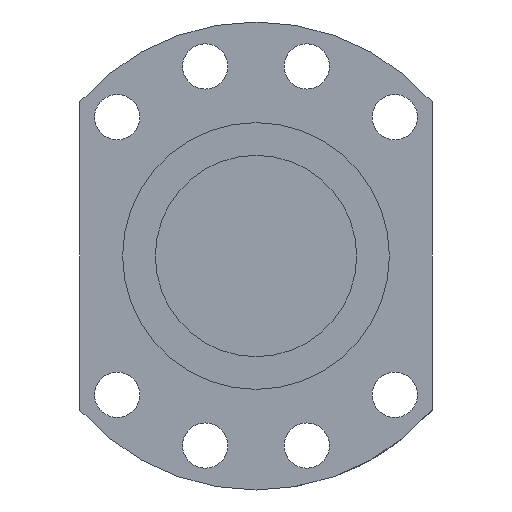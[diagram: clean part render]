
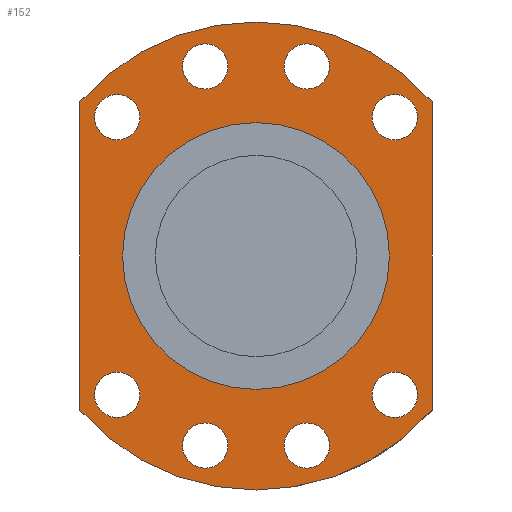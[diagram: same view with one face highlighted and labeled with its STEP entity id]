
A CAD part, front view. The second image highlights one B-rep face of the part: STEP entity #152.
In plain terms, the highlighted planar face has unit normal (0, -1, 0).
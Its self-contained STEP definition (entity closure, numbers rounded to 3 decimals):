
#105=LINE('',#1003,#113);
#107=LINE('',#1006,#115);
#113=VECTOR('',#726,1.);
#115=VECTOR('',#730,1.);
#133=PLANE('',#644);
#152=ADVANCED_FACE('',(#223,#224,#225,#226,#227,#228,#229,#230,#231,#232),
#133,.F.);
#223=FACE_BOUND('',#305,.T.);
#224=FACE_BOUND('',#306,.T.);
#225=FACE_BOUND('',#307,.T.);
#226=FACE_BOUND('',#308,.T.);
#227=FACE_BOUND('',#309,.T.);
#228=FACE_BOUND('',#310,.T.);
#229=FACE_BOUND('',#311,.T.);
#230=FACE_BOUND('',#312,.T.);
#231=FACE_BOUND('',#313,.T.);
#232=FACE_BOUND('',#314,.T.);
#305=EDGE_LOOP('',(#404));
#306=EDGE_LOOP('',(#405));
#307=EDGE_LOOP('',(#406));
#308=EDGE_LOOP('',(#407));
#309=EDGE_LOOP('',(#408));
#310=EDGE_LOOP('',(#409));
#311=EDGE_LOOP('',(#410));
#312=EDGE_LOOP('',(#411));
#313=EDGE_LOOP('',(#412));
#314=EDGE_LOOP('',(#413,#414,#415,#416));
#404=ORIENTED_EDGE('',*,*,#541,.F.);
#405=ORIENTED_EDGE('',*,*,#542,.F.);
#406=ORIENTED_EDGE('',*,*,#543,.F.);
#407=ORIENTED_EDGE('',*,*,#544,.F.);
#408=ORIENTED_EDGE('',*,*,#545,.T.);
#409=ORIENTED_EDGE('',*,*,#546,.T.);
#410=ORIENTED_EDGE('',*,*,#547,.T.);
#411=ORIENTED_EDGE('',*,*,#548,.T.);
#412=ORIENTED_EDGE('',*,*,#549,.T.);
#413=ORIENTED_EDGE('',*,*,#524,.F.);
#414=ORIENTED_EDGE('',*,*,#530,.F.);
#415=ORIENTED_EDGE('',*,*,#517,.F.);
#416=ORIENTED_EDGE('',*,*,#528,.F.);
#470=VERTEX_POINT('',#922);
#471=VERTEX_POINT('',#923);
#477=VERTEX_POINT('',#995);
#478=VERTEX_POINT('',#996);
#490=VERTEX_POINT('',#1029);
#491=VERTEX_POINT('',#1031);
#492=VERTEX_POINT('',#1033);
#493=VERTEX_POINT('',#1035);
#494=VERTEX_POINT('',#1037);
#495=VERTEX_POINT('',#1039);
#496=VERTEX_POINT('',#1041);
#497=VERTEX_POINT('',#1043);
#498=VERTEX_POINT('',#1045);
#517=EDGE_CURVE('',#470,#471,#567,.T.);
#524=EDGE_CURVE('',#477,#478,#571,.T.);
#528=EDGE_CURVE('',#478,#470,#105,.T.);
#530=EDGE_CURVE('',#471,#477,#107,.T.);
#541=EDGE_CURVE('',#490,#490,#582,.T.);
#542=EDGE_CURVE('',#491,#491,#583,.T.);
#543=EDGE_CURVE('',#492,#492,#584,.T.);
#544=EDGE_CURVE('',#493,#493,#585,.T.);
#545=EDGE_CURVE('',#494,#494,#586,.T.);
#546=EDGE_CURVE('',#495,#495,#587,.T.);
#547=EDGE_CURVE('',#496,#496,#588,.T.);
#548=EDGE_CURVE('',#497,#497,#589,.T.);
#549=EDGE_CURVE('',#498,#498,#590,.T.);
#567=CIRCLE('',#614,46.5);
#571=CIRCLE('',#620,46.5);
#582=CIRCLE('',#635,4.5);
#583=CIRCLE('',#636,4.5);
#584=CIRCLE('',#637,4.5);
#585=CIRCLE('',#638,4.5);
#586=CIRCLE('',#639,4.5);
#587=CIRCLE('',#640,4.5);
#588=CIRCLE('',#641,4.5);
#589=CIRCLE('',#642,4.5);
#590=CIRCLE('',#643,26.5);
#614=AXIS2_PLACEMENT_3D('',#921,#704,#705);
#620=AXIS2_PLACEMENT_3D('',#994,#718,#719);
#635=AXIS2_PLACEMENT_3D('',#1028,#754,#755);
#636=AXIS2_PLACEMENT_3D('',#1030,#756,#757);
#637=AXIS2_PLACEMENT_3D('',#1032,#758,#759);
#638=AXIS2_PLACEMENT_3D('',#1034,#760,#761);
#639=AXIS2_PLACEMENT_3D('',#1036,#762,#763);
#640=AXIS2_PLACEMENT_3D('',#1038,#764,#765);
#641=AXIS2_PLACEMENT_3D('',#1040,#766,#767);
#642=AXIS2_PLACEMENT_3D('',#1042,#768,#769);
#643=AXIS2_PLACEMENT_3D('',#1044,#770,#771);
#644=AXIS2_PLACEMENT_3D('',#1046,#772,#773);
#704=DIRECTION('',(0.,1.,0.));
#705=DIRECTION('',(1.,0.,0.));
#718=DIRECTION('',(0.,1.,0.));
#719=DIRECTION('',(1.,0.,0.));
#726=DIRECTION('',(0.,0.,-1.));
#730=DIRECTION('',(0.,0.,1.));
#754=DIRECTION('',(0.,-1.,0.));
#755=DIRECTION('',(-1.,0.,0.));
#756=DIRECTION('',(0.,-1.,0.));
#757=DIRECTION('',(-0.866,0.,-0.5));
#758=DIRECTION('',(0.,-1.,0.));
#759=DIRECTION('',(-0.5,0.,-0.866));
#760=DIRECTION('',(0.,-1.,0.));
#761=DIRECTION('',(0.,0.,-1.));
#762=DIRECTION('',(0.,1.,0.));
#763=DIRECTION('',(-1.,0.,0.));
#764=DIRECTION('',(0.,1.,0.));
#765=DIRECTION('',(-0.866,0.,0.5));
#766=DIRECTION('',(0.,1.,0.));
#767=DIRECTION('',(-0.5,0.,0.866));
#768=DIRECTION('',(0.,1.,0.));
#769=DIRECTION('',(0.,0.,1.));
#770=DIRECTION('',(0.,1.,0.));
#771=DIRECTION('',(0.,0.,1.));
#772=DIRECTION('',(0.,1.,0.));
#773=DIRECTION('',(0.,0.,-1.));
#921=CARTESIAN_POINT('',(0.,-44.,0.));
#922=CARTESIAN_POINT('',(35.,-44.,-30.615));
#923=CARTESIAN_POINT('',(-35.,-44.,-30.615));
#994=CARTESIAN_POINT('',(0.,-44.,0.));
#995=CARTESIAN_POINT('',(-35.,-44.,30.615));
#996=CARTESIAN_POINT('',(35.,-44.,30.615));
#1003=CARTESIAN_POINT('',(35.,-44.,30.615));
#1006=CARTESIAN_POINT('',(-35.,-44.,-30.615));
#1028=CARTESIAN_POINT('',(27.577,-44.,27.577));
#1029=CARTESIAN_POINT('',(23.077,-44.,27.577));
#1030=CARTESIAN_POINT('',(10.094,-44.,37.671));
#1031=CARTESIAN_POINT('',(6.197,-44.,35.421));
#1032=CARTESIAN_POINT('',(-10.094,-44.,37.671));
#1033=CARTESIAN_POINT('',(-12.344,-44.,33.774));
#1034=CARTESIAN_POINT('',(-27.577,-44.,27.577));
#1035=CARTESIAN_POINT('',(-27.577,-44.,23.077));
#1036=CARTESIAN_POINT('',(27.577,-44.,-27.577));
#1037=CARTESIAN_POINT('',(23.077,-44.,-27.577));
#1038=CARTESIAN_POINT('',(10.094,-44.,-37.671));
#1039=CARTESIAN_POINT('',(6.197,-44.,-35.421));
#1040=CARTESIAN_POINT('',(-10.094,-44.,-37.671));
#1041=CARTESIAN_POINT('',(-12.344,-44.,-33.774));
#1042=CARTESIAN_POINT('',(-27.577,-44.,-27.577));
#1043=CARTESIAN_POINT('',(-27.577,-44.,-23.077));
#1044=CARTESIAN_POINT('',(0.,-44.,0.));
#1045=CARTESIAN_POINT('',(0.,-44.,26.5));
#1046=CARTESIAN_POINT('',(0.,-44.,0.));
